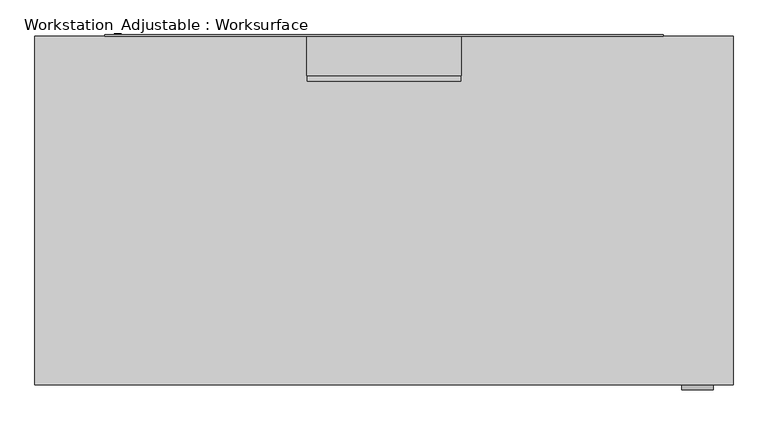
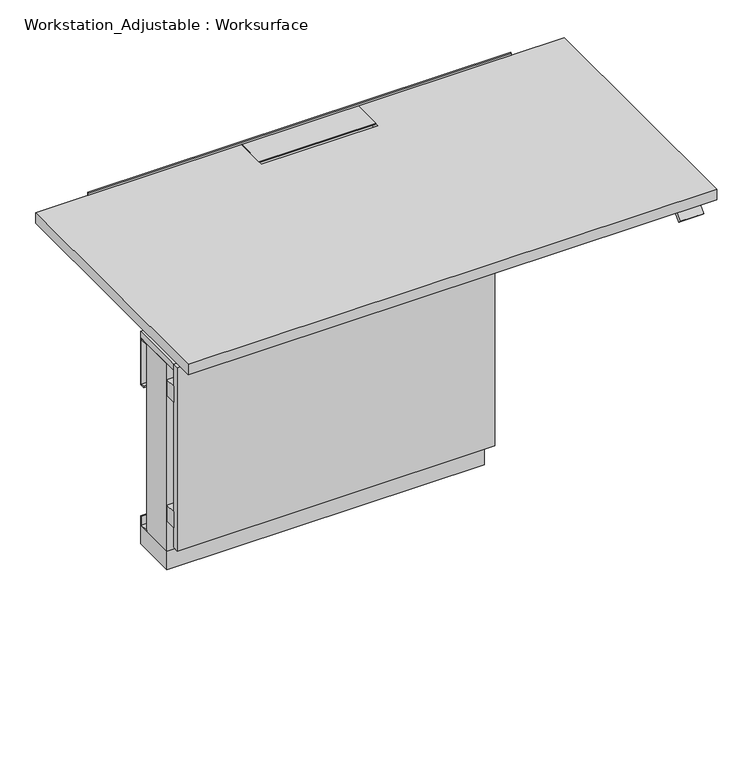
"""IFC4 building model written with IfcOpenShell, lengths in millimetres: furniture geometry, Workstation_Adjustable : Worksurface."""

from ifc_helpers import new_model, si_unit, frame, origin, origin_with_axes, place, context, project, spatial, polyline, outline, extrude, faceted_brep, source, transform, mapped, element, save


def workstation_adjustable_worksurface_3895cc66(model_context):
    return source(origin(), model_context, "Body", "SolidModel", [
        extrude(outline(polyline([(-752.4201976, 1085.85), (-701.8734375, 1085.85), (-701.8734375, 1072.9517789), (-753.8937348, 1072.9517789), (-768.677545, 1058.1679687), (-775.2953125, 1064.7857362), (-757.9809444, 1082.1001044), (-752.4201976, 1082.1001044), (-752.4201976, 1085.85)])), frame((650.24, 0.0, 0.0), z_axis=(1.0, 0.0, 0.0), x_axis=(0.0, 1.0, 0.0)), (0.0, 0.0, 1.0), 68.58),
        extrude(outline(polyline([(609.6, 0.0), (609.6, -3.175), (-609.6, -3.175), (-609.6, 0.0), (609.6, 0.0)])), frame((0.0, 0.0, 1085.85), z_axis=(0.0, 0.0, 1.0), x_axis=(1.0, 0.0, 0.0)), (0.0, 0.0, 1.0), 38.1),
        extrude(outline(polyline([(168.275, -3.175), (168.275, -89.535), (-168.275, -89.535), (-168.275, -3.175), (168.275, -3.175)])), frame((0.0, 0.0, 1114.425), z_axis=(0.0, 0.0, 1.0), x_axis=(1.0, 0.0, 0.0)), (0.0, 0.0, 1.0), 3.175),
        faceted_brep([(-762.0, -3.175, 1117.6), (-762.0, -765.175, 1117.6), (762.0, -765.175, 1117.6), (762.0, -3.175, 1117.6), (168.275, -3.175, 1117.6), (168.275, -102.235, 1117.6), (-168.275, -102.235, 1117.6), (-168.275, -3.175, 1117.6), (762.0, -3.175, 1085.85), (762.0, -765.175, 1085.85), (-762.0, -765.175, 1085.85), (-762.0, -3.175, 1085.85), (-168.275, -3.175, 1098.55), (168.275, -3.175, 1098.55), (-168.275, -102.235, 1098.55), (168.275, -102.235, 1098.55)], [[[0, 1, 2, 3, 4, 5, 6, 7]], [[8, 9, 10, 11]], [[8, 11, 0, 7, 12, 13, 4, 3]], [[1, 0, 11, 10]], [[2, 1, 10, 9]], [[3, 2, 9, 8]], [[14, 15, 13, 12]], [[15, 14, 6, 5]], [[13, 15, 5, 4]], [[14, 12, 7, 6]]]),
        extrude(outline(polyline([(-577.3336445, 1085.85), (-130.9634162, 1085.85), (-130.9634162, 1033.6520227), (-577.3336445, 1064.8652697), (-577.3336445, 1085.85)])), frame((-443.5, 0.0, 0.0), z_axis=(1.0, 0.0, 0.0), x_axis=(0.0, 1.0, 0.0)), (0.0, 0.0, 1.0), 66.675),
        extrude(outline(polyline([(-577.3336445, 1085.85), (-130.9634162, 1085.85), (-130.9634162, 1033.8741833), (-577.3336445, 1064.8652697), (-577.3336445, 1085.85)])), frame((376.825, 0.0, 0.0), z_axis=(1.0, 0.0, 0.0), x_axis=(0.0, 1.0, 0.0)), (0.0, 0.0, 1.0), 66.675),
        extrude(outline(polyline([(443.5, -28.9460464), (443.5, -130.9634162), (-443.5, -130.9634162), (-443.5, -28.9460464), (443.5, -28.9460464)])), frame((0.0, 0.0, 647.7), z_axis=(0.0, 0.0, 1.0), x_axis=(1.0, 0.0, 0.0)), (0.0, 0.0, 1.0), 438.15),
        extrude(outline(polyline([(457.2, -130.9634162), (457.2, -165.1), (-457.2, -165.1), (-457.2, -130.9634162), (457.2, -130.9634162)])), frame((0.0, 0.0, 532.2152261), z_axis=(0.0, 0.0, 1.0), x_axis=(1.0, 0.0, 0.0)), (0.0, 0.0, 1.0), 47.8582985),
        extrude(outline(polyline([(457.2, -130.9634162), (457.2, -165.1), (-457.2, -165.1), (-457.2, -130.9634162), (457.2, -130.9634162)])), frame((0.0, 0.0, 149.1838463), z_axis=(0.0, 0.0, 1.0), x_axis=(1.0, 0.0, 0.0)), (0.0, 0.0, 1.0), 47.8582985),
        extrude(outline(polyline([(457.2, -165.1), (457.2, -183.0311159), (-457.2, -183.0311159), (-457.2, -165.1), (457.2, -165.1)])), frame((0.0, 0.0, 88.9), z_axis=(0.0, 0.0, 1.0), x_axis=(1.0, 0.0, 0.0)), (0.0, 0.0, 1.0), 558.8),
        extrude(outline(polyline([(457.2, 0.0), (457.2, -165.1), (-457.2, -165.1), (-457.2, 0.0), (457.2, 0.0)])), frame((0.0, 0.0, 628.6379484), z_axis=(0.0, 0.0, 1.0), x_axis=(1.0, 0.0, 0.0)), (0.0, 0.0, 1.0), 19.0620516),
        extrude(outline(polyline([(-15.0025037, 489.2598982), (-3.8829287, 489.2598982), (-3.8829287, 624.4492909), (-30.0050612, 624.4492909), (-30.0050612, 628.6379484), (0.0, 628.6379484), (0.0, 485.2002965), (-15.0025037, 485.2002965), (-15.0025037, 489.2598982)])), frame((-457.2, 0.0, 0.0), z_axis=(1.0, 0.0, 0.0), x_axis=(0.0, 1.0, 0.0)), (0.0, 0.0, 1.0), 914.4),
        extrude(outline(polyline([(0.0, 85.9815469), (0.0, 55.9507362), (-30.0050612, 55.9507362), (-30.0050612, 59.0724938), (-3.0004253, 59.0724938), (-3.0004253, 85.9815469), (0.0, 85.9815469)])), frame((-457.2, 0.0, 0.0), z_axis=(1.0, 0.0, 0.0), x_axis=(0.0, 1.0, 0.0)), (0.0, 0.0, 1.0), 914.4),
        extrude(outline(polyline([(457.2, -30.0050612), (457.2, -130.9634162), (-457.2, -130.9634162), (-457.2, -30.0050612), (457.2, -30.0050612)])), frame((0.0, 0.0, 55.9507362), z_axis=(0.0, 0.0, 1.0), x_axis=(1.0, 0.0, 0.0)), (0.0, 0.0, 1.0), 572.6872123),
        extrude(outline(polyline([(457.2, 0.0), (457.2, -130.9634162), (-457.2, -130.9634162), (-457.2, 0.0), (457.2, 0.0)])), origin_with_axes(), (0.0, 0.0, 1.0), 55.9507362),
    ])


if __name__ == "__main__":
    model = new_model("IFC4")
    model_context = context("Model", 3, world=origin())
    ifc_project = project(units=[si_unit("LENGTHUNIT", "METRE", prefix="MILLI")], contexts=[model_context])
    site = spatial("IfcSite", under=ifc_project)
    building = spatial("IfcBuilding", under=site)
    placement = place(None, origin())
    workstation_adjustable_worksurface_shape = workstation_adjustable_worksurface_3895cc66(model_context)
    element("IfcFurniture", 1, ObjectType="Workstation_Adjustable : Worksurface", at=placement, inside=building, context=model_context, shape_type="MappedRepresentation", body=[
        mapped(workstation_adjustable_worksurface_shape, transform((0.0, 0.0, 0.0), x_axis=(1.0, 0.0, 0.0), y_axis=(0.0, 1.0, 0.0), z_axis=(0.0, 0.0, 1.0))),
    ])
    save(model, "model.ifc")
